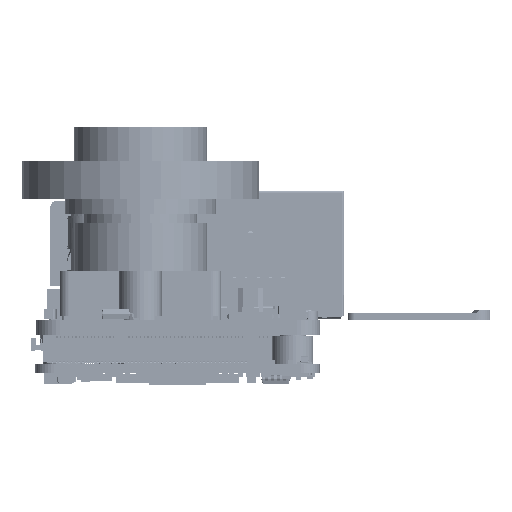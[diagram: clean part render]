
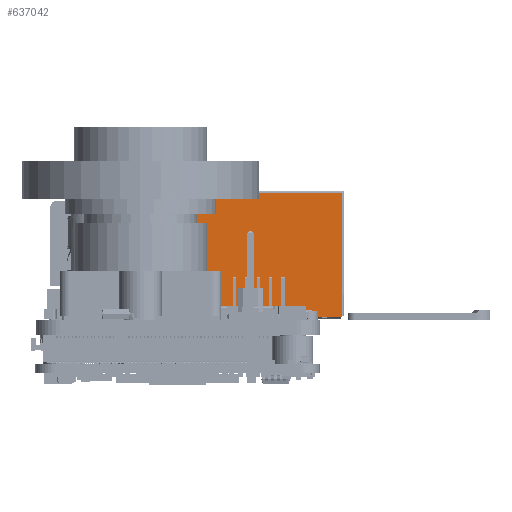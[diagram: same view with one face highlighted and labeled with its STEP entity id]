
A CAD part, left-side view. The second image highlights one B-rep face of the part: STEP entity #637042.
In plain terms, the highlighted planar face has unit normal (-1, 0, 0).
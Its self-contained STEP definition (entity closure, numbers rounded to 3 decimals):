
#631190 = EDGE_CURVE('',#631191,#631193,#631195,.T.);
#631191 = VERTEX_POINT('',#631192);
#631192 = CARTESIAN_POINT('',(80.62,30.432,
    0.35));
#631193 = VERTEX_POINT('',#631194);
#631194 = CARTESIAN_POINT('',(80.62,30.432,
    13.42));
#631195 = LINE('',#631196,#631197);
#631196 = CARTESIAN_POINT('',(80.62,30.432,
    0.35));
#631197 = VECTOR('',#631198,1.);
#631198 = DIRECTION('',(0.,0.,1.));
#631224 = EDGE_CURVE('',#631191,#631225,#631227,.T.);
#631225 = VERTEX_POINT('',#631226);
#631226 = CARTESIAN_POINT('',(80.62,24.032,
    0.35));
#631227 = LINE('',#631228,#631229);
#631228 = CARTESIAN_POINT('',(80.62,30.432,
    0.35));
#631229 = VECTOR('',#631230,1.);
#631230 = DIRECTION('',(0.,-1.,0.));
#631249 = VERTEX_POINT('',#631250);
#631250 = CARTESIAN_POINT('',(80.62,22.492,
    0.35));
#631256 = EDGE_CURVE('',#631249,#631257,#631259,.T.);
#631257 = VERTEX_POINT('',#631258);
#631258 = CARTESIAN_POINT('',(80.62,9.642,
    0.35));
#631259 = LINE('',#631260,#631261);
#631260 = CARTESIAN_POINT('',(80.62,22.492,
    0.35));
#631261 = VECTOR('',#631262,1.);
#631262 = DIRECTION('',(0.,-1.,0.));
#637042 = ADVANCED_FACE('',(#637043,#637120),#637190,.T.);
#637043 = FACE_BOUND('',#637044,.F.);
#637044 = EDGE_LOOP('',(#637045,#637046,#637054,#637060,#637061,#637070,
    #637078,#637087,#637095,#637104,#637112,#637119));
#637045 = ORIENTED_EDGE('',*,*,#631190,.T.);
#637046 = ORIENTED_EDGE('',*,*,#637047,.F.);
#637047 = EDGE_CURVE('',#637048,#631193,#637050,.T.);
#637048 = VERTEX_POINT('',#637049);
#637049 = CARTESIAN_POINT('',(80.62,9.642,
    13.42));
#637050 = LINE('',#637051,#637052);
#637051 = CARTESIAN_POINT('',(80.62,9.642,
    13.42));
#637052 = VECTOR('',#637053,1.);
#637053 = DIRECTION('',(0.,1.,0.));
#637054 = ORIENTED_EDGE('',*,*,#637055,.T.);
#637055 = EDGE_CURVE('',#637048,#631257,#637056,.T.);
#637056 = LINE('',#637057,#637058);
#637057 = CARTESIAN_POINT('',(80.62,9.642,
    13.42));
#637058 = VECTOR('',#637059,1.);
#637059 = DIRECTION('',(0.,0.,-1.));
#637060 = ORIENTED_EDGE('',*,*,#631256,.F.);
#637061 = ORIENTED_EDGE('',*,*,#637062,.F.);
#637062 = EDGE_CURVE('',#637063,#631249,#637065,.T.);
#637063 = VERTEX_POINT('',#637064);
#637064 = CARTESIAN_POINT('',(80.62,22.642,
    0.2));
#637065 = CIRCLE('',#637066,0.15);
#637066 = AXIS2_PLACEMENT_3D('',#637067,#637068,#637069);
#637067 = CARTESIAN_POINT('',(80.62,22.492,
    0.2));
#637068 = DIRECTION('',(1.,0.,-0.));
#637069 = DIRECTION('',(0.,1.,0.));
#637070 = ORIENTED_EDGE('',*,*,#637071,.T.);
#637071 = EDGE_CURVE('',#637063,#637072,#637074,.T.);
#637072 = VERTEX_POINT('',#637073);
#637073 = CARTESIAN_POINT('',(80.62,22.642,
    -3.05));
#637074 = LINE('',#637075,#637076);
#637075 = CARTESIAN_POINT('',(80.62,22.642,
    0.2));
#637076 = VECTOR('',#637077,1.);
#637077 = DIRECTION('',(0.,0.,-1.));
#637078 = ORIENTED_EDGE('',*,*,#637079,.F.);
#637079 = EDGE_CURVE('',#637080,#637072,#637082,.T.);
#637080 = VERTEX_POINT('',#637081);
#637081 = CARTESIAN_POINT('',(80.62,23.242,
    -3.65));
#637082 = CIRCLE('',#637083,0.6);
#637083 = AXIS2_PLACEMENT_3D('',#637084,#637085,#637086);
#637084 = CARTESIAN_POINT('',(80.62,23.242,
    -3.05));
#637085 = DIRECTION('',(-1.,0.,-0.));
#637086 = DIRECTION('',(0.,0.,-1.));
#637087 = ORIENTED_EDGE('',*,*,#637088,.T.);
#637088 = EDGE_CURVE('',#637080,#637089,#637091,.T.);
#637089 = VERTEX_POINT('',#637090);
#637090 = CARTESIAN_POINT('',(80.62,23.282,
    -3.65));
#637091 = LINE('',#637092,#637093);
#637092 = CARTESIAN_POINT('',(80.62,23.242,
    -3.65));
#637093 = VECTOR('',#637094,1.);
#637094 = DIRECTION('',(0.,1.,0.));
#637095 = ORIENTED_EDGE('',*,*,#637096,.F.);
#637096 = EDGE_CURVE('',#637097,#637089,#637099,.T.);
#637097 = VERTEX_POINT('',#637098);
#637098 = CARTESIAN_POINT('',(80.62,23.882,
    -3.05));
#637099 = CIRCLE('',#637100,0.6);
#637100 = AXIS2_PLACEMENT_3D('',#637101,#637102,#637103);
#637101 = CARTESIAN_POINT('',(80.62,23.282,
    -3.05));
#637102 = DIRECTION('',(-1.,0.,0.));
#637103 = DIRECTION('',(0.,1.,0.));
#637104 = ORIENTED_EDGE('',*,*,#637105,.F.);
#637105 = EDGE_CURVE('',#637106,#637097,#637108,.T.);
#637106 = VERTEX_POINT('',#637107);
#637107 = CARTESIAN_POINT('',(80.62,23.882,
    0.2));
#637108 = LINE('',#637109,#637110);
#637109 = CARTESIAN_POINT('',(80.62,23.882,
    0.2));
#637110 = VECTOR('',#637111,1.);
#637111 = DIRECTION('',(0.,0.,-1.));
#637112 = ORIENTED_EDGE('',*,*,#637113,.F.);
#637113 = EDGE_CURVE('',#631225,#637106,#637114,.T.);
#637114 = CIRCLE('',#637115,0.15);
#637115 = AXIS2_PLACEMENT_3D('',#637116,#637117,#637118);
#637116 = CARTESIAN_POINT('',(80.62,24.032,
    0.2));
#637117 = DIRECTION('',(1.,0.,0.));
#637118 = DIRECTION('',(0.,0.,1.));
#637119 = ORIENTED_EDGE('',*,*,#631224,.F.);
#637120 = FACE_BOUND('',#637121,.F.);
#637121 = EDGE_LOOP('',(#637122,#637133,#637141,#637150,#637158,#637167,
    #637175,#637184));
#637122 = ORIENTED_EDGE('',*,*,#637123,.T.);
#637123 = EDGE_CURVE('',#637124,#637126,#637128,.T.);
#637124 = VERTEX_POINT('',#637125);
#637125 = CARTESIAN_POINT('',(80.62,22.963,
    0.554));
#637126 = VERTEX_POINT('',#637127);
#637127 = CARTESIAN_POINT('',(80.62,23.253,
    0.844));
#637128 = CIRCLE('',#637129,0.29);
#637129 = AXIS2_PLACEMENT_3D('',#637130,#637131,#637132);
#637130 = CARTESIAN_POINT('',(80.62,23.253,
    0.554));
#637131 = DIRECTION('',(-1.,-0.,0.));
#637132 = DIRECTION('',(0.,-1.,0.));
#637133 = ORIENTED_EDGE('',*,*,#637134,.T.);
#637134 = EDGE_CURVE('',#637126,#637135,#637137,.T.);
#637135 = VERTEX_POINT('',#637136);
#637136 = CARTESIAN_POINT('',(80.62,23.27,
    0.844));
#637137 = LINE('',#637138,#637139);
#637138 = CARTESIAN_POINT('',(80.62,23.253,
    0.844));
#637139 = VECTOR('',#637140,1.);
#637140 = DIRECTION('',(0.,1.,0.));
#637141 = ORIENTED_EDGE('',*,*,#637142,.T.);
#637142 = EDGE_CURVE('',#637135,#637143,#637145,.T.);
#637143 = VERTEX_POINT('',#637144);
#637144 = CARTESIAN_POINT('',(80.62,23.56,
    0.554));
#637145 = CIRCLE('',#637146,0.29);
#637146 = AXIS2_PLACEMENT_3D('',#637147,#637148,#637149);
#637147 = CARTESIAN_POINT('',(80.62,23.27,
    0.554));
#637148 = DIRECTION('',(-1.,0.,0.));
#637149 = DIRECTION('',(0.,0.,1.));
#637150 = ORIENTED_EDGE('',*,*,#637151,.T.);
#637151 = EDGE_CURVE('',#637143,#637152,#637154,.T.);
#637152 = VERTEX_POINT('',#637153);
#637153 = CARTESIAN_POINT('',(80.62,23.56,
    -2.86));
#637154 = LINE('',#637155,#637156);
#637155 = CARTESIAN_POINT('',(80.62,23.56,
    0.554));
#637156 = VECTOR('',#637157,1.);
#637157 = DIRECTION('',(0.,0.,-1.));
#637158 = ORIENTED_EDGE('',*,*,#637159,.T.);
#637159 = EDGE_CURVE('',#637152,#637160,#637162,.T.);
#637160 = VERTEX_POINT('',#637161);
#637161 = CARTESIAN_POINT('',(80.62,23.27,
    -3.15));
#637162 = CIRCLE('',#637163,0.29);
#637163 = AXIS2_PLACEMENT_3D('',#637164,#637165,#637166);
#637164 = CARTESIAN_POINT('',(80.62,23.27,
    -2.86));
#637165 = DIRECTION('',(-1.,0.,0.));
#637166 = DIRECTION('',(0.,1.,0.));
#637167 = ORIENTED_EDGE('',*,*,#637168,.T.);
#637168 = EDGE_CURVE('',#637160,#637169,#637171,.T.);
#637169 = VERTEX_POINT('',#637170);
#637170 = CARTESIAN_POINT('',(80.62,23.253,
    -3.15));
#637171 = LINE('',#637172,#637173);
#637172 = CARTESIAN_POINT('',(80.62,23.27,
    -3.15));
#637173 = VECTOR('',#637174,1.);
#637174 = DIRECTION('',(0.,-1.,0.));
#637175 = ORIENTED_EDGE('',*,*,#637176,.T.);
#637176 = EDGE_CURVE('',#637169,#637177,#637179,.T.);
#637177 = VERTEX_POINT('',#637178);
#637178 = CARTESIAN_POINT('',(80.62,22.963,
    -2.86));
#637179 = CIRCLE('',#637180,0.29);
#637180 = AXIS2_PLACEMENT_3D('',#637181,#637182,#637183);
#637181 = CARTESIAN_POINT('',(80.62,23.253,
    -2.86));
#637182 = DIRECTION('',(-1.,0.,-0.));
#637183 = DIRECTION('',(0.,0.,-1.));
#637184 = ORIENTED_EDGE('',*,*,#637185,.T.);
#637185 = EDGE_CURVE('',#637177,#637124,#637186,.T.);
#637186 = LINE('',#637187,#637188);
#637187 = CARTESIAN_POINT('',(80.62,22.963,
    -2.86));
#637188 = VECTOR('',#637189,1.);
#637189 = DIRECTION('',(0.,0.,1.));
#637190 = PLANE('',#637191);
#637191 = AXIS2_PLACEMENT_3D('',#637192,#637193,#637194);
#637192 = CARTESIAN_POINT('',(80.62,30.662,
    13.65));
#637193 = DIRECTION('',(-1.,-0.,0.));
#637194 = DIRECTION('',(0.,0.,-1.));
